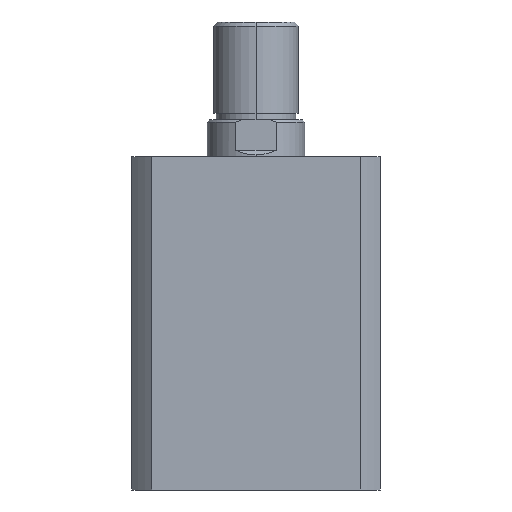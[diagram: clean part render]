
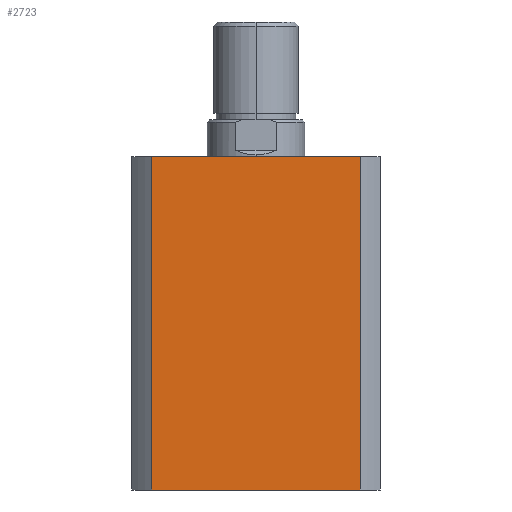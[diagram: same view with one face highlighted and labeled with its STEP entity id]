
A CAD part, left-side view. The second image highlights one B-rep face of the part: STEP entity #2723.
In plain terms, the highlighted planar face has unit normal (-1, 0, 0).
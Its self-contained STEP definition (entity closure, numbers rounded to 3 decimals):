
#280 = EDGE_CURVE ( 'NONE', #3791, #3750, #1926, .T. ) ;
#312 = EDGE_CURVE ( 'NONE', #3902, #3791, #1966, .T. ) ;
#314 = EDGE_CURVE ( 'NONE', #3913, #3750, #1970, .T. ) ;
#315 = EDGE_CURVE ( 'NONE', #3902, #3913, #1971, .T. ) ;
#686 = CARTESIAN_POINT ( 'NONE',  ( -57., 47.971, 0. ) ) ;
#982 = ORIENTED_EDGE ( 'NONE', *, *, #312, .T. ) ;
#983 = ORIENTED_EDGE ( 'NONE', *, *, #315, .F. ) ;
#984 = ORIENTED_EDGE ( 'NONE', *, *, #314, .F. ) ;
#985 = ORIENTED_EDGE ( 'NONE', *, *, #280, .T. ) ;
#1107 = DIRECTION ( 'NONE',  ( 0., 0., -1. ) ) ;
#1108 = DIRECTION ( 'NONE',  ( 1., 0., 0. ) ) ;
#1112 = PLANE ( 'NONE',  #1551 ) ;
#1114 = CARTESIAN_POINT ( 'NONE',  ( -57., 0., 153. ) ) ;
#1551 = AXIS2_PLACEMENT_3D ( 'NONE', #1114, #1108, #1107 ) ;
#1630 = EDGE_LOOP ( 'NONE', ( #985, #984, #983, #982 ) ) ;
#1926 = LINE ( 'NONE', #3605, #1927 ) ;
#1927 = VECTOR ( 'NONE', #3619, 1000. ) ;
#1966 = LINE ( 'NONE', #3673, #1969 ) ;
#1969 = VECTOR ( 'NONE', #3672, 1000. ) ;
#1970 = LINE ( 'NONE', #3681, #1972 ) ;
#1971 = LINE ( 'NONE', #3666, #1974 ) ;
#1972 = VECTOR ( 'NONE', #3680, 1000. ) ;
#1974 = VECTOR ( 'NONE', #3665, 1000. ) ;
#2723 = ADVANCED_FACE ( 'NONE', ( #3139 ), #1112, .F. ) ;
#3139 = FACE_OUTER_BOUND ( 'NONE', #1630, .T. ) ;
#3605 = CARTESIAN_POINT ( 'NONE',  ( -57., 0., 0. ) ) ;
#3619 = DIRECTION ( 'NONE',  ( 0., -1., 0. ) ) ;
#3665 = DIRECTION ( 'NONE',  ( 0., -1., 0. ) ) ;
#3666 = CARTESIAN_POINT ( 'NONE',  ( -57., 0., 153. ) ) ;
#3672 = DIRECTION ( 'NONE',  ( 0., 0., -1. ) ) ;
#3673 = CARTESIAN_POINT ( 'NONE',  ( -57., 47.971, 153. ) ) ;
#3680 = DIRECTION ( 'NONE',  ( 0., 0., -1. ) ) ;
#3681 = CARTESIAN_POINT ( 'NONE',  ( -57., -47.971, 153. ) ) ;
#3750 = VERTEX_POINT ( 'NONE', #5105 ) ;
#3791 = VERTEX_POINT ( 'NONE', #686 ) ;
#3902 = VERTEX_POINT ( 'NONE', #5069 ) ;
#3913 = VERTEX_POINT ( 'NONE', #5058 ) ;
#5058 = CARTESIAN_POINT ( 'NONE',  ( -57., -47.971, 153. ) ) ;
#5069 = CARTESIAN_POINT ( 'NONE',  ( -57., 47.971, 153. ) ) ;
#5105 = CARTESIAN_POINT ( 'NONE',  ( -57., -47.971, 0. ) ) ;
